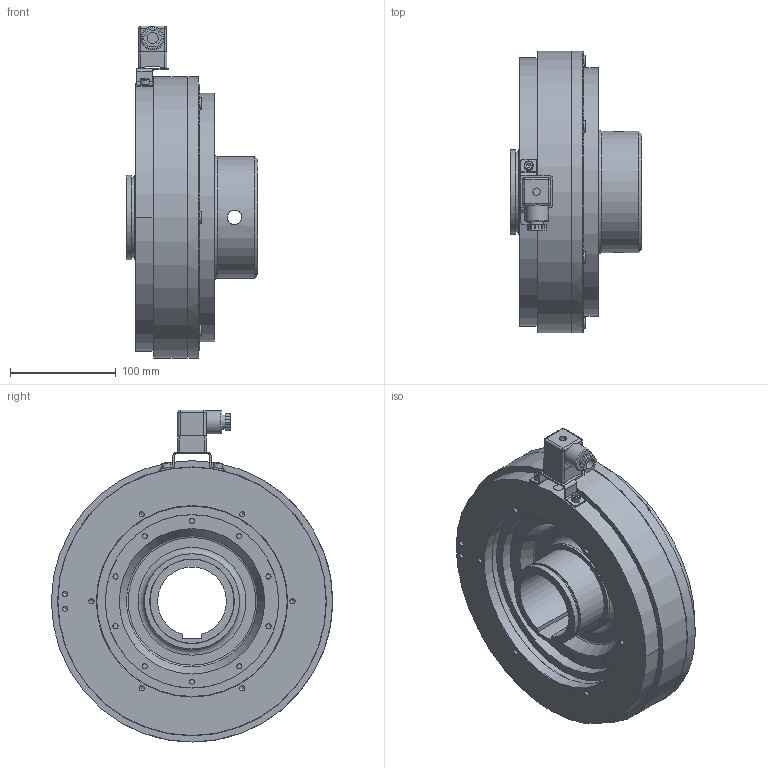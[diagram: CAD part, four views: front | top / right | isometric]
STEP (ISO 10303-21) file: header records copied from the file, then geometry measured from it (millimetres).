
FILE_DESCRIPTION(/* description */ (''),/* implementation_level */ '2;1');
FILE_NAME(/* name */ 'X:\INVENTOR\DISEGNI\08_Freni_Friz_Elettmag_Monodisco\08_26 EMSL_DF\EMSL_DF STEP\08_26_260_22 EMSL260_DF-BM-ME_S@STEP.stp',/* time_stamp */ '2018-04-24T09:07:11+02:00',/* author */ ('stefano'),/* organization */ (''),/* preprocessor_version */ 'ST-DEVELOPER v17',/* originating_system */ 'Autodesk Inventor 2018',/* authorisation */ '');
FILE_SCHEMA (('AUTOMOTIVE_DESIGN { 1 0 10303 214 3 1 1 }'));
Length unit declared in the file: millimetre
Products named in the file (1): 08_26_260_22 EMSL260_DF-BM-ME - Spina_Substitute_1
Bounding box: 124.5 x 266 x 313.9 mm (x, y, z)
Volume: 2799791.8 mm3; surface area: 513285.5 mm2
Topology: 4 solids, 4 shells, 724 faces, 2042 edges, 1395 vertices
Faces by surface type: cylinder 311, plane 282, cone 101, torus 26, sphere 4
Full cylindrical faces by diameter (mm): 2 x13, 4.917 x18, 5 x2, 5.25 x2, 6.647 x6, 7 x13, 7.1 x18, 8.5 x2, 9 x1, 10 x10, 10.5 x1, 11 x24, 12.5 x6, 13 x7, 13.835 x2, 22 x1, 76.5 x1, 80 x2, 90 x1, 115 x1, 138 x1, 163.8 x1, 164 x1, 166 x1, 180 x2, 180.6 x1, 194 x1, 235 x1, 243 x1, 254.3 x1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
Entity records: 24862 total; most frequent: CARTESIAN_POINT 4781, DIRECTION 4327, ORIENTED_EDGE 4008, EDGE_CURVE 2004, AXIS2_PLACEMENT_3D 1755, VERTEX_POINT 1399, CIRCLE 1030, EDGE_LOOP 913
